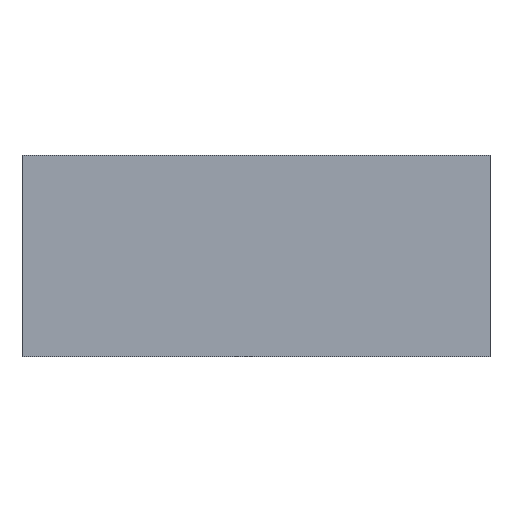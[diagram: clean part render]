
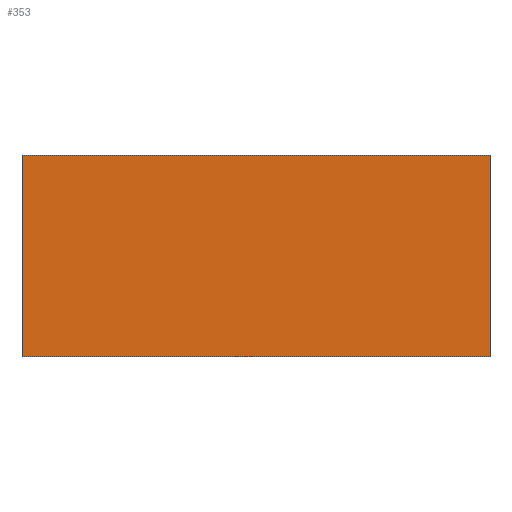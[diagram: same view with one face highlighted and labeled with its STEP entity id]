
A CAD part, top view. The second image highlights one B-rep face of the part: STEP entity #353.
In plain terms, the highlighted planar face has unit normal (0, 0, 1).
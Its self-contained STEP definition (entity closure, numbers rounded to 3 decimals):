
#39 = VERTEX_POINT('',#40);
#40 = CARTESIAN_POINT('',(-2.272,0.98,0.539));
#47 = PLANE('',#48);
#48 = AXIS2_PLACEMENT_3D('',#49,#50,#51);
#49 = CARTESIAN_POINT('',(-2.272,0.98,0.));
#50 = DIRECTION('',(0.,1.,0.));
#51 = DIRECTION('',(1.,0.,0.));
#59 = PLANE('',#60);
#60 = AXIS2_PLACEMENT_3D('',#61,#62,#63);
#61 = CARTESIAN_POINT('',(-2.272,-0.98,0.));
#62 = DIRECTION('',(-1.,0.,0.));
#63 = DIRECTION('',(0.,1.,0.));
#71 = EDGE_CURVE('',#39,#72,#74,.T.);
#72 = VERTEX_POINT('',#73);
#73 = CARTESIAN_POINT('',(2.273,0.98,0.539));
#74 = SURFACE_CURVE('',#75,(#79,#86),.PCURVE_S1.);
#75 = LINE('',#76,#77);
#76 = CARTESIAN_POINT('',(-2.272,0.98,0.539));
#77 = VECTOR('',#78,1.);
#78 = DIRECTION('',(1.,0.,0.));
#79 = PCURVE('',#47,#80);
#80 = DEFINITIONAL_REPRESENTATION('',(#81),#85);
#81 = LINE('',#82,#83);
#82 = CARTESIAN_POINT('',(0.,-0.539));
#83 = VECTOR('',#84,1.);
#84 = DIRECTION('',(1.,0.));
#85 = ( GEOMETRIC_REPRESENTATION_CONTEXT(2) 
PARAMETRIC_REPRESENTATION_CONTEXT() REPRESENTATION_CONTEXT('2D SPACE',''
  ) );
#86 = PCURVE('',#87,#92);
#87 = PLANE('',#88);
#88 = AXIS2_PLACEMENT_3D('',#89,#90,#91);
#89 = CARTESIAN_POINT('',(0.001,0.,0.539));
#90 = DIRECTION('',(-0.,-0.,-1.));
#91 = DIRECTION('',(-1.,0.,0.));
#92 = DEFINITIONAL_REPRESENTATION('',(#93),#97);
#93 = LINE('',#94,#95);
#94 = CARTESIAN_POINT('',(2.273,0.98));
#95 = VECTOR('',#96,1.);
#96 = DIRECTION('',(-1.,0.));
#97 = ( GEOMETRIC_REPRESENTATION_CONTEXT(2) 
PARAMETRIC_REPRESENTATION_CONTEXT() REPRESENTATION_CONTEXT('2D SPACE',''
  ) );
#115 = PLANE('',#116);
#116 = AXIS2_PLACEMENT_3D('',#117,#118,#119);
#117 = CARTESIAN_POINT('',(2.273,0.98,0.));
#118 = DIRECTION('',(1.,0.,-0.));
#119 = DIRECTION('',(0.,-1.,0.));
#157 = EDGE_CURVE('',#72,#158,#160,.T.);
#158 = VERTEX_POINT('',#159);
#159 = CARTESIAN_POINT('',(2.273,-0.98,0.539));
#160 = SURFACE_CURVE('',#161,(#165,#172),.PCURVE_S1.);
#161 = LINE('',#162,#163);
#162 = CARTESIAN_POINT('',(2.273,0.98,0.539));
#163 = VECTOR('',#164,1.);
#164 = DIRECTION('',(0.,-1.,0.));
#165 = PCURVE('',#115,#166);
#166 = DEFINITIONAL_REPRESENTATION('',(#167),#171);
#167 = LINE('',#168,#169);
#168 = CARTESIAN_POINT('',(0.,-0.539));
#169 = VECTOR('',#170,1.);
#170 = DIRECTION('',(1.,0.));
#171 = ( GEOMETRIC_REPRESENTATION_CONTEXT(2) 
PARAMETRIC_REPRESENTATION_CONTEXT() REPRESENTATION_CONTEXT('2D SPACE',''
  ) );
#172 = PCURVE('',#87,#173);
#173 = DEFINITIONAL_REPRESENTATION('',(#174),#178);
#174 = LINE('',#175,#176);
#175 = CARTESIAN_POINT('',(-2.273,0.98));
#176 = VECTOR('',#177,1.);
#177 = DIRECTION('',(0.,-1.));
#178 = ( GEOMETRIC_REPRESENTATION_CONTEXT(2) 
PARAMETRIC_REPRESENTATION_CONTEXT() REPRESENTATION_CONTEXT('2D SPACE',''
  ) );
#196 = PLANE('',#197);
#197 = AXIS2_PLACEMENT_3D('',#198,#199,#200);
#198 = CARTESIAN_POINT('',(2.273,-0.98,0.));
#199 = DIRECTION('',(0.,-1.,0.));
#200 = DIRECTION('',(-1.,0.,0.));
#233 = EDGE_CURVE('',#158,#234,#236,.T.);
#234 = VERTEX_POINT('',#235);
#235 = CARTESIAN_POINT('',(-2.272,-0.98,0.539));
#236 = SURFACE_CURVE('',#237,(#241,#248),.PCURVE_S1.);
#237 = LINE('',#238,#239);
#238 = CARTESIAN_POINT('',(2.273,-0.98,0.539));
#239 = VECTOR('',#240,1.);
#240 = DIRECTION('',(-1.,0.,0.));
#241 = PCURVE('',#196,#242);
#242 = DEFINITIONAL_REPRESENTATION('',(#243),#247);
#243 = LINE('',#244,#245);
#244 = CARTESIAN_POINT('',(0.,-0.539));
#245 = VECTOR('',#246,1.);
#246 = DIRECTION('',(1.,0.));
#247 = ( GEOMETRIC_REPRESENTATION_CONTEXT(2) 
PARAMETRIC_REPRESENTATION_CONTEXT() REPRESENTATION_CONTEXT('2D SPACE',''
  ) );
#248 = PCURVE('',#87,#249);
#249 = DEFINITIONAL_REPRESENTATION('',(#250),#254);
#250 = LINE('',#251,#252);
#251 = CARTESIAN_POINT('',(-2.273,-0.98));
#252 = VECTOR('',#253,1.);
#253 = DIRECTION('',(1.,0.));
#254 = ( GEOMETRIC_REPRESENTATION_CONTEXT(2) 
PARAMETRIC_REPRESENTATION_CONTEXT() REPRESENTATION_CONTEXT('2D SPACE',''
  ) );
#304 = EDGE_CURVE('',#234,#39,#305,.T.);
#305 = SURFACE_CURVE('',#306,(#310,#317),.PCURVE_S1.);
#306 = LINE('',#307,#308);
#307 = CARTESIAN_POINT('',(-2.272,-0.98,0.539));
#308 = VECTOR('',#309,1.);
#309 = DIRECTION('',(0.,1.,0.));
#310 = PCURVE('',#59,#311);
#311 = DEFINITIONAL_REPRESENTATION('',(#312),#316);
#312 = LINE('',#313,#314);
#313 = CARTESIAN_POINT('',(0.,-0.539));
#314 = VECTOR('',#315,1.);
#315 = DIRECTION('',(1.,0.));
#316 = ( GEOMETRIC_REPRESENTATION_CONTEXT(2) 
PARAMETRIC_REPRESENTATION_CONTEXT() REPRESENTATION_CONTEXT('2D SPACE',''
  ) );
#317 = PCURVE('',#87,#318);
#318 = DEFINITIONAL_REPRESENTATION('',(#319),#323);
#319 = LINE('',#320,#321);
#320 = CARTESIAN_POINT('',(2.273,-0.98));
#321 = VECTOR('',#322,1.);
#322 = DIRECTION('',(0.,1.));
#323 = ( GEOMETRIC_REPRESENTATION_CONTEXT(2) 
PARAMETRIC_REPRESENTATION_CONTEXT() REPRESENTATION_CONTEXT('2D SPACE',''
  ) );
#353 = ADVANCED_FACE('',(#354),#87,.F.);
#354 = FACE_BOUND('',#355,.F.);
#355 = EDGE_LOOP('',(#356,#357,#358,#359));
#356 = ORIENTED_EDGE('',*,*,#71,.T.);
#357 = ORIENTED_EDGE('',*,*,#157,.T.);
#358 = ORIENTED_EDGE('',*,*,#233,.T.);
#359 = ORIENTED_EDGE('',*,*,#304,.T.);
